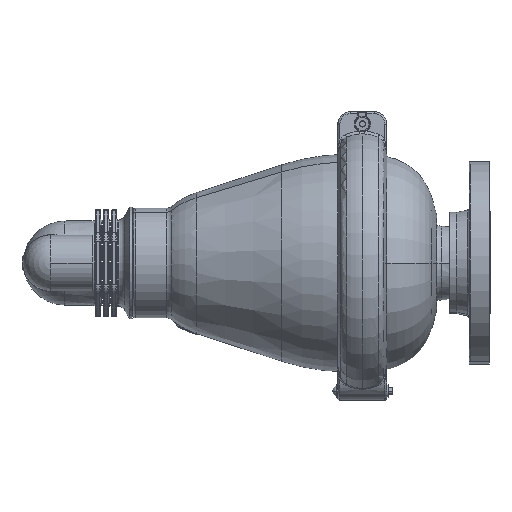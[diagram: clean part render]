
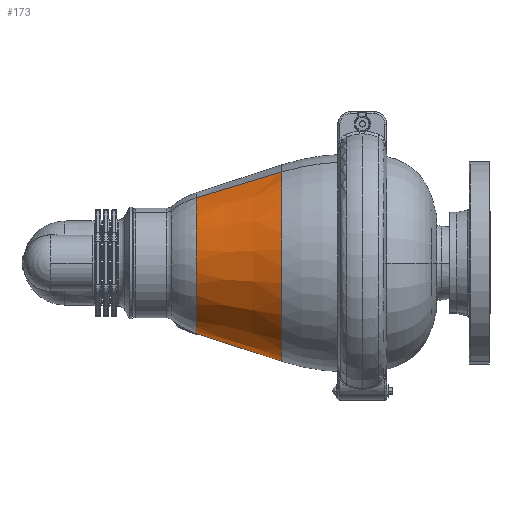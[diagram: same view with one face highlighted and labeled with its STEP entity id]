
A CAD part, left-side view. The second image highlights one B-rep face of the part: STEP entity #173.
In plain terms, the highlighted conical face has half-angle 18 degrees and reference radius 96.771 mm.
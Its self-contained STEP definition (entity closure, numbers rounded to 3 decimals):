
#173 = ADVANCED_FACE ( 'NONE', ( #8439 ), #8453, .T. ) ;
#949 = VERTEX_POINT ( 'NONE', #16356 ) ;
#953 = VERTEX_POINT ( 'NONE', #16360 ) ;
#954 = VERTEX_POINT ( 'NONE', #16361 ) ;
#985 = VERTEX_POINT ( 'NONE', #16392 ) ;
#986 = VERTEX_POINT ( 'NONE', #16393 ) ;
#988 = VERTEX_POINT ( 'NONE', #16395 ) ;
#990 = VERTEX_POINT ( 'NONE', #16397 ) ;
#1281 = ORIENTED_EDGE ( 'NONE', *, *, #2159, .F. ) ;
#1283 = ORIENTED_EDGE ( 'NONE', *, *, #2157, .T. ) ;
#1296 = ORIENTED_EDGE ( 'NONE', *, *, #2160, .F. ) ;
#1319 = ORIENTED_EDGE ( 'NONE', *, *, #2156, .T. ) ;
#1356 = ORIENTED_EDGE ( 'NONE', *, *, #2161, .T. ) ;
#1358 = ORIENTED_EDGE ( 'NONE', *, *, #2162, .T. ) ;
#1368 = ORIENTED_EDGE ( 'NONE', *, *, #2158, .T. ) ;
#1533 = EDGE_LOOP ( 'NONE', ( #1356, #1358, #1296, #1281, #1368, #1283, #1319 ) ) ;
#2156 = EDGE_CURVE ( 'NONE', #949, #990, #25812, .T. ) ;
#2157 = EDGE_CURVE ( 'NONE', #988, #949, #25964, .T. ) ;
#2158 = EDGE_CURVE ( 'NONE', #953, #988, #13751, .T. ) ;
#2159 = EDGE_CURVE ( 'NONE', #953, #985, #13756, .T. ) ;
#2160 = EDGE_CURVE ( 'NONE', #985, #986, #13758, .T. ) ;
#2161 = EDGE_CURVE ( 'NONE', #990, #954, #25728, .T. ) ;
#2162 = EDGE_CURVE ( 'NONE', #954, #986, #13761, .T. ) ;
#8439 = FACE_OUTER_BOUND ( 'NONE', #1533, .T. ) ;
#8453 = CONICAL_SURFACE ( 'NONE', #8808, 96.771, 0.314 ) ;
#8808 = AXIS2_PLACEMENT_3D ( 'NONE', #10385, #10383, #10381 ) ;
#9453 = AXIS2_PLACEMENT_3D ( 'NONE', #17661, #17662, #17663 ) ;
#9454 = AXIS2_PLACEMENT_3D ( 'NONE', #17666, #17667, #17668 ) ;
#10381 = DIRECTION ( 'NONE',  ( -0.375, 0., 0.927 ) ) ;
#10383 = DIRECTION ( 'NONE',  ( 0., -1., 0. ) ) ;
#10385 = CARTESIAN_POINT ( 'NONE',  ( 0., 198.5, 0. ) ) ;
#13751 = CIRCLE ( 'NONE', #9453, 69.348 ) ;
#13756 = LINE ( 'NONE', #17654, #13759 ) ;
#13758 = CIRCLE ( 'NONE', #9454, 96.771 ) ;
#13759 = VECTOR ( 'NONE', #17655, 1000. ) ;
#13761 = LINE ( 'NONE', #17675, #13762 ) ;
#13762 = VECTOR ( 'NONE', #17676, 1000. ) ;
#16356 = CARTESIAN_POINT ( 'NONE',  ( 16.483, 275.875, -69.708 ) ) ;
#16360 = CARTESIAN_POINT ( 'NONE',  ( -26.001, 282.9, 64.289 ) ) ;
#16361 = CARTESIAN_POINT ( 'NONE',  ( 27.457, 270.951, -67.888 ) ) ;
#16392 = CARTESIAN_POINT ( 'NONE',  ( -36.284, 198.5, 89.711 ) ) ;
#16393 = CARTESIAN_POINT ( 'NONE',  ( 36.284, 198.5, -89.711 ) ) ;
#16395 = CARTESIAN_POINT ( 'NONE',  ( 15.622, 282.9, -67.565 ) ) ;
#16397 = CARTESIAN_POINT ( 'NONE',  ( 19.297, 268.666, -71.411 ) ) ;
#17621 = CARTESIAN_POINT ( 'NONE',  ( 16.483, 275.875, -69.708 ) ) ;
#17625 = CARTESIAN_POINT ( 'NONE',  ( 15.699, 282.267, -67.759 ) ) ;
#17629 = CARTESIAN_POINT ( 'NONE',  ( 16.565, 275.205, -69.912 ) ) ;
#17630 = CARTESIAN_POINT ( 'NONE',  ( 15.622, 282.9, -67.565 ) ) ;
#17634 = CARTESIAN_POINT ( 'NONE',  ( 16.666, 274.537, -70.111 ) ) ;
#17635 = CARTESIAN_POINT ( 'NONE',  ( 16.911, 273.206, -70.498 ) ) ;
#17636 = CARTESIAN_POINT ( 'NONE',  ( 17.055, 272.541, -70.685 ) ) ;
#17637 = CARTESIAN_POINT ( 'NONE',  ( 17.321, 271.552, -70.951 ) ) ;
#17638 = CARTESIAN_POINT ( 'NONE',  ( 17.418, 271.224, -71.037 ) ) ;
#17639 = CARTESIAN_POINT ( 'NONE',  ( 17.636, 270.575, -71.201 ) ) ;
#17640 = CARTESIAN_POINT ( 'NONE',  ( 17.757, 270.252, -71.279 ) ) ;
#17641 = CARTESIAN_POINT ( 'NONE',  ( 17.971, 269.779, -71.384 ) ) ;
#17642 = CARTESIAN_POINT ( 'NONE',  ( 18.047, 269.622, -71.417 ) ) ;
#17643 = CARTESIAN_POINT ( 'NONE',  ( 18.217, 269.319, -71.476 ) ) ;
#17644 = CARTESIAN_POINT ( 'NONE',  ( 18.31, 269.171, -71.501 ) ) ;
#17645 = CARTESIAN_POINT ( 'NONE',  ( 18.473, 268.964, -71.529 ) ) ;
#17646 = CARTESIAN_POINT ( 'NONE',  ( 18.531, 268.897, -71.536 ) ) ;
#17647 = CARTESIAN_POINT ( 'NONE',  ( 18.659, 268.775, -71.544 ) ) ;
#17648 = CARTESIAN_POINT ( 'NONE',  ( 18.729, 268.72, -71.544 ) ) ;
#17649 = CARTESIAN_POINT ( 'NONE',  ( 18.883, 268.635, -71.532 ) ) ;
#17650 = CARTESIAN_POINT ( 'NONE',  ( 18.969, 268.606, -71.519 ) ) ;
#17651 = CARTESIAN_POINT ( 'NONE',  ( 19.142, 268.601, -71.475 ) ) ;
#17652 = CARTESIAN_POINT ( 'NONE',  ( 19.225, 268.625, -71.445 ) ) ;
#17653 = CARTESIAN_POINT ( 'NONE',  ( 19.297, 268.666, -71.411 ) ) ;
#17654 = CARTESIAN_POINT ( 'NONE',  ( -36.284, 198.5, 89.711 ) ) ;
#17655 = DIRECTION ( 'NONE',  ( -0.116, -0.951, 0.286 ) ) ;
#17656 = CARTESIAN_POINT ( 'NONE',  ( 15.777, 281.633, -67.952 ) ) ;
#17657 = CARTESIAN_POINT ( 'NONE',  ( 15.855, 281., -68.145 ) ) ;
#17658 = CARTESIAN_POINT ( 'NONE',  ( 16.064, 279.292, -68.666 ) ) ;
#17659 = CARTESIAN_POINT ( 'NONE',  ( 16.274, 277.584, -69.187 ) ) ;
#17660 = CARTESIAN_POINT ( 'NONE',  ( 16.483, 275.875, -69.708 ) ) ;
#17661 = CARTESIAN_POINT ( 'NONE',  ( 0., 282.9, 0. ) ) ;
#17662 = DIRECTION ( 'NONE',  ( 0., -1., 0. ) ) ;
#17663 = DIRECTION ( 'NONE',  ( -0.375, 0., 0.927 ) ) ;
#17664 = CARTESIAN_POINT ( 'NONE',  ( 19.297, 268.666, -71.411 ) ) ;
#17665 = CARTESIAN_POINT ( 'NONE',  ( 19.927, 269.02, -71.122 ) ) ;
#17666 = CARTESIAN_POINT ( 'NONE',  ( 0., 198.5, 0. ) ) ;
#17667 = DIRECTION ( 'NONE',  ( 0., -1., 0. ) ) ;
#17668 = DIRECTION ( 'NONE',  ( -0.375, 0., 0.927 ) ) ;
#17669 = CARTESIAN_POINT ( 'NONE',  ( 20.574, 269.342, -70.829 ) ) ;
#17670 = CARTESIAN_POINT ( 'NONE',  ( 21.896, 269.907, -70.239 ) ) ;
#17671 = CARTESIAN_POINT ( 'NONE',  ( 22.567, 270.149, -69.944 ) ) ;
#17672 = CARTESIAN_POINT ( 'NONE',  ( 24.608, 270.738, -69.061 ) ) ;
#17673 = CARTESIAN_POINT ( 'NONE',  ( 26.009, 270.951, -68.474 ) ) ;
#17674 = CARTESIAN_POINT ( 'NONE',  ( 27.457, 270.951, -67.888 ) ) ;
#17675 = CARTESIAN_POINT ( 'NONE',  ( 36.284, 198.5, -89.711 ) ) ;
#17676 = DIRECTION ( 'NONE',  ( 0.116, -0.951, -0.286 ) ) ;
#25728 = B_SPLINE_CURVE_WITH_KNOTS ( 'NONE', 3,
 ( #17664, #17665, #17669, #17670, #17671, #17672, #17673, #17674 ),
 .UNSPECIFIED., .F., .F.,
 ( 4, 2, 2, 4 ),
 ( 0., 0.002, 0.005, 0.009 ),
 .UNSPECIFIED. ) ;
#25812 = B_SPLINE_CURVE_WITH_KNOTS ( 'NONE', 3,
 ( #17621, #17629, #17634, #17635, #17636, #17637, #17638, #17639, #17640, #17641, #17642, #17643, #17644, #17645, #17646, #17647, #17648, #17649, #17650, #17651, #17652, #17653 ),
 .UNSPECIFIED., .F., .F.,
 ( 4, 2, 2, 2, 2, 2, 2, 2, 2, 2, 4 ),
 ( 0., 0.002, 0.004, 0.005, 0.006, 0.007, 0.007, 0.008, 0.008, 0.008, 0.008 ),
 .UNSPECIFIED. ) ;
#25964 = B_SPLINE_CURVE_WITH_KNOTS ( 'NONE', 3,
 ( #17630, #17625, #17656, #17657, #17658, #17659, #17660 ),
 .UNSPECIFIED., .F., .F.,
 ( 4, 3, 4 ),
 ( 0., 0.002, 0.007 ),
 .UNSPECIFIED. ) ;
